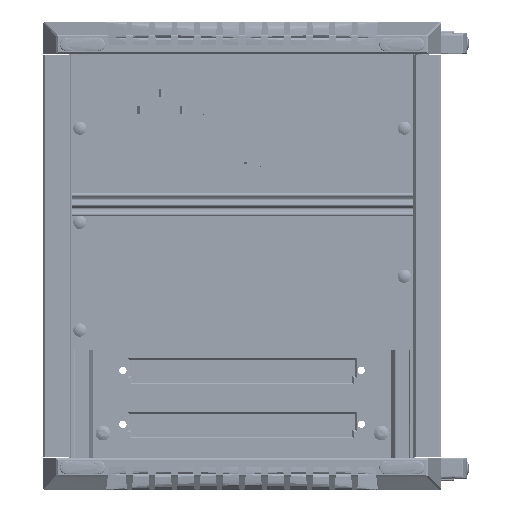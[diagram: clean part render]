
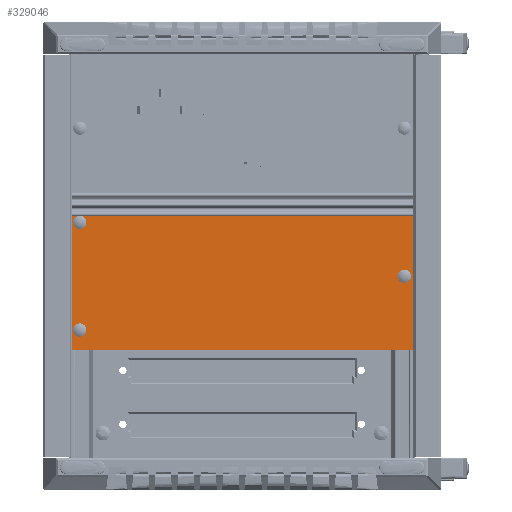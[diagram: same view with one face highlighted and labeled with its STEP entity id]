
A CAD part, left-side view. The second image highlights one B-rep face of the part: STEP entity #329046.
In plain terms, the highlighted free-form (B-spline) face has degree [1, 1] with [2, 2] control points.
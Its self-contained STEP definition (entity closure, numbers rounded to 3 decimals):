
#325024=DIRECTION('',(0.,0.,1.));
#325025=VECTOR('',#325024,53.3);
#325026=CARTESIAN_POINT('',(-298.,-8.1,5.06));
#325027=LINE('',#325026,#325025);
#325262=DIRECTION('',(0.,0.,1.));
#325263=VECTOR('',#325262,53.3);
#325264=CARTESIAN_POINT('',(-298.,120.6,5.06));
#325265=LINE('',#325264,#325263);
#325807=DIRECTION('',(0.,1.,0.));
#325808=VECTOR('',#325807,128.7);
#325809=CARTESIAN_POINT('',(-298.,-8.1,58.36));
#325810=LINE('',#325809,#325808);
#325811=DIRECTION('',(0.,1.,0.));
#325812=VECTOR('',#325811,128.7);
#325813=CARTESIAN_POINT('',(-298.,-8.1,5.06));
#325814=LINE('',#325813,#325812);
#325815=CARTESIAN_POINT('',(-298.,-5.,32.82));
#325816=DIRECTION('',(-1.,0.,0.));
#325817=DIRECTION('',(0.,0.,1.));
#325818=AXIS2_PLACEMENT_3D('',#325815,#325816,#325817);
#325820=CARTESIAN_POINT('',(-298.,-5.,32.82));
#325821=DIRECTION('',(-1.,0.,0.));
#325822=DIRECTION('',(0.,0.,-1.));
#325823=AXIS2_PLACEMENT_3D('',#325820,#325821,#325822);
#325825=CARTESIAN_POINT('',(-298.,117.5,12.5));
#325826=DIRECTION('',(-1.,0.,0.));
#325827=DIRECTION('',(0.,0.,1.));
#325828=AXIS2_PLACEMENT_3D('',#325825,#325826,#325827);
#325830=CARTESIAN_POINT('',(-298.,117.5,12.5));
#325831=DIRECTION('',(-1.,0.,0.));
#325832=DIRECTION('',(0.,0.,-1.));
#325833=AXIS2_PLACEMENT_3D('',#325830,#325831,#325832);
#325835=CARTESIAN_POINT('',(-298.,117.5,53.14));
#325836=DIRECTION('',(-1.,0.,0.));
#325837=DIRECTION('',(0.,0.,1.));
#325838=AXIS2_PLACEMENT_3D('',#325835,#325836,#325837);
#325840=CARTESIAN_POINT('',(-298.,117.5,53.14));
#325841=DIRECTION('',(-1.,0.,0.));
#325842=DIRECTION('',(0.,0.,-1.));
#325843=AXIS2_PLACEMENT_3D('',#325840,#325841,#325842);
#327131=CARTESIAN_POINT('',(-298.,-8.1,5.06));
#327132=CARTESIAN_POINT('',(-298.,120.6,5.06));
#327133=VERTEX_POINT('',#327131);
#327134=VERTEX_POINT('',#327132);
#327163=CARTESIAN_POINT('',(-298.,-8.1,58.36));
#327164=CARTESIAN_POINT('',(-298.,120.6,58.36));
#327165=VERTEX_POINT('',#327163);
#327166=VERTEX_POINT('',#327164);
#327479=CARTESIAN_POINT('',(-298.,-5.,34.17));
#327480=CARTESIAN_POINT('',(-298.,-5.,31.47));
#327481=VERTEX_POINT('',#327479);
#327482=VERTEX_POINT('',#327480);
#327483=CARTESIAN_POINT('',(-298.,117.5,13.85));
#327484=CARTESIAN_POINT('',(-298.,117.5,11.15));
#327485=VERTEX_POINT('',#327483);
#327486=VERTEX_POINT('',#327484);
#327487=CARTESIAN_POINT('',(-298.,117.5,54.49));
#327488=CARTESIAN_POINT('',(-298.,117.5,51.79));
#327489=VERTEX_POINT('',#327487);
#327490=VERTEX_POINT('',#327488);
#329016=CARTESIAN_POINT('',(-298.,-10.674,3.994));
#329017=CARTESIAN_POINT('',(-298.,123.174,3.994));
#329018=CARTESIAN_POINT('',(-298.,-10.674,59.426));
#329019=CARTESIAN_POINT('',(-298.,123.174,59.426));
#329020=B_SPLINE_SURFACE_WITH_KNOTS('',1,1,((#329016,#329017),(#329018,
#329019)),.UNSPECIFIED.,.F.,.F.,.F.,(2,2),(2,2),(-1.066,54.366),(-2.574,
131.274),.UNSPECIFIED.);
#329021=ORIENTED_EDGE('',*,*,#329001,.F.);
#329022=ORIENTED_EDGE('',*,*,#327794,.F.);
#329024=ORIENTED_EDGE('',*,*,#329023,.T.);
#329025=ORIENTED_EDGE('',*,*,#328331,.T.);
#329026=EDGE_LOOP('',(#329021,#329022,#329024,#329025));
#329027=FACE_OUTER_BOUND('',#329026,.F.);
#329029=ORIENTED_EDGE('',*,*,#329028,.T.);
#329031=ORIENTED_EDGE('',*,*,#329030,.T.);
#329032=EDGE_LOOP('',(#329029,#329031));
#329033=FACE_BOUND('',#329032,.F.);
#329035=ORIENTED_EDGE('',*,*,#329034,.T.);
#329037=ORIENTED_EDGE('',*,*,#329036,.T.);
#329038=EDGE_LOOP('',(#329035,#329037));
#329039=FACE_BOUND('',#329038,.F.);
#329041=ORIENTED_EDGE('',*,*,#329040,.T.);
#329043=ORIENTED_EDGE('',*,*,#329042,.T.);
#329044=EDGE_LOOP('',(#329041,#329043));
#329045=FACE_BOUND('',#329044,.F.);
#329046=ADVANCED_FACE('',(#329027,#329033,#329039,#329045),#329020,.T.);
#325819=CIRCLE('',#325818,1.35);
#325824=CIRCLE('',#325823,1.35);
#325829=CIRCLE('',#325828,1.35);
#325834=CIRCLE('',#325833,1.35);
#325839=CIRCLE('',#325838,1.35);
#325844=CIRCLE('',#325843,1.35);
#327794=EDGE_CURVE('',#327133,#327165,#325027,.T.);
#328331=EDGE_CURVE('',#327134,#327166,#325265,.T.);
#329001=EDGE_CURVE('',#327165,#327166,#325810,.T.);
#329023=EDGE_CURVE('',#327133,#327134,#325814,.T.);
#329028=EDGE_CURVE('',#327481,#327482,#325819,.T.);
#329030=EDGE_CURVE('',#327482,#327481,#325824,.T.);
#329034=EDGE_CURVE('',#327485,#327486,#325829,.T.);
#329036=EDGE_CURVE('',#327486,#327485,#325834,.T.);
#329040=EDGE_CURVE('',#327489,#327490,#325839,.T.);
#329042=EDGE_CURVE('',#327490,#327489,#325844,.T.);
